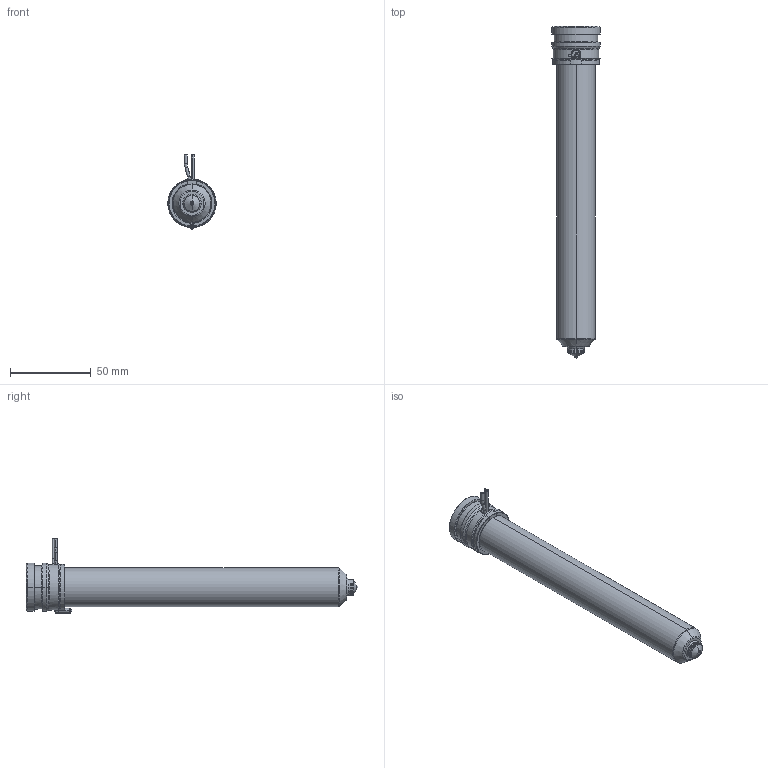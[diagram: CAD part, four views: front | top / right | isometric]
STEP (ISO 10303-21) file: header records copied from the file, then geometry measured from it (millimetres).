
FILE_DESCRIPTION((''),'2;1');
FILE_NAME('MPN-10-29-TS10-186-A','2026-02-05T12:33:59',('UPTIO'),('Thermoplay S.p.A.'),'CREO PARAMETRIC BY PTC INC, 2023494','CREO PARAMETRIC BY PTC INC, 2023494','');
FILE_SCHEMA(('CONFIG_CONTROL_DESIGN','SHAPE_APPEARANCE_LAYERS_GROUPS'));
Length unit declared in the file: millimetre
Products named in the file (1): MPN-10-29-TS10-186-A
Bounding box: 30 x 206 x 46 mm (x, y, z)
Volume: 63929.7 mm3; surface area: 64719 mm2
Topology: 2 solids, 3 shells, 552 faces, 1455 edges, 898 vertices
Faces by surface type: cylinder 180, plane 145, bspline 78, torus 68, cone 66, sphere 11, extrusion 4
Entity records: 31297 total; most frequent: CARTESIAN_POINT 14918, ORIENTED_EDGE 2894, DIRECTION 2651, EDGE_CURVE 1447, AXIS2_PLACEMENT_3D 1051, VERTEX_POINT 898, EDGE_LOOP 581, CIRCLE 580
